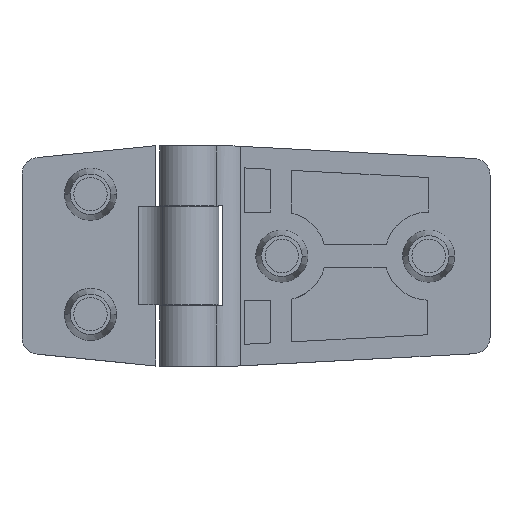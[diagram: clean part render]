
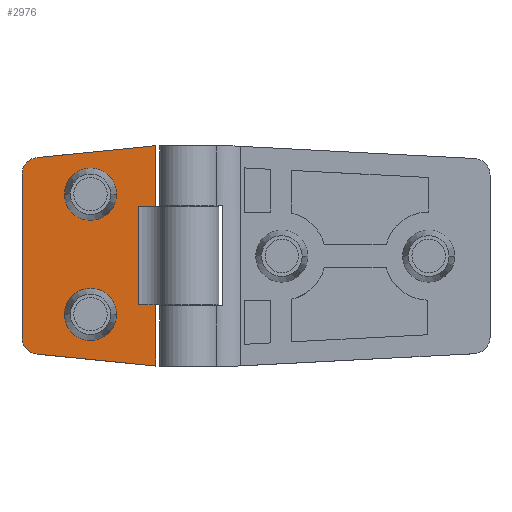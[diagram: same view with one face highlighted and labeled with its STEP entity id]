
A CAD part, top view. The second image highlights one B-rep face of the part: STEP entity #2976.
In plain terms, the highlighted planar face has unit normal (0, 0, 1).
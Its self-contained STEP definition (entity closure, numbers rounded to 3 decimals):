
#31 = DIRECTION ( 'NONE',  ( 0., 0., 1. ) ) ;
#32 = CARTESIAN_POINT ( 'NONE',  ( 27., 28.738, 4. ) ) ;
#33 = AXIS2_PLACEMENT_3D ( 'NONE', #32, #31, #85 ) ;
#34 = CIRCLE ( 'NONE', #33, 2.5 ) ;
#35 = CARTESIAN_POINT ( 'NONE',  ( 27.249, 31.225, 4. ) ) ;
#84 = CARTESIAN_POINT ( 'NONE',  ( 29.5, 28.738, 4. ) ) ;
#85 = DIRECTION ( 'NONE',  ( -1., 0., 0. ) ) ;
#103 = CARTESIAN_POINT ( 'NONE',  ( 27.249, 1.775, 4. ) ) ;
#104 = DIRECTION ( 'NONE',  ( -1., 0., 0. ) ) ;
#105 = DIRECTION ( 'NONE',  ( 0., 0., 1. ) ) ;
#106 = CARTESIAN_POINT ( 'NONE',  ( 27., 4.262, 4. ) ) ;
#107 = AXIS2_PLACEMENT_3D ( 'NONE', #106, #105, #104 ) ;
#108 = CIRCLE ( 'NONE', #107, 2.5 ) ;
#109 = CARTESIAN_POINT ( 'NONE',  ( 29.5, 4.262, 4. ) ) ;
#132 = DIRECTION ( 'NONE',  ( -1., 0., 0. ) ) ;
#133 = DIRECTION ( 'NONE',  ( 0., 0., -1. ) ) ;
#134 = CARTESIAN_POINT ( 'NONE',  ( 19.244, 25.272, 4. ) ) ;
#135 = AXIS2_PLACEMENT_3D ( 'NONE', #134, #133, #132 ) ;
#136 = CIRCLE ( 'NONE', #135, 3.9 ) ;
#147 = VECTOR ( 'NONE', #208, 1000. ) ;
#148 = CARTESIAN_POINT ( 'NONE',  ( 9.5, 33., 4. ) ) ;
#149 = LINE ( 'NONE', #148, #147 ) ;
#150 = CARTESIAN_POINT ( 'NONE',  ( 9.5, 33., 4. ) ) ;
#151 = DIRECTION ( 'NONE',  ( -0.995, 0.1, 0. ) ) ;
#152 = VECTOR ( 'NONE', #151, 1000. ) ;
#153 = CARTESIAN_POINT ( 'NONE',  ( 29.5, 31., 4. ) ) ;
#154 = LINE ( 'NONE', #153, #152 ) ;
#155 = DIRECTION ( 'NONE',  ( 0., 1., 0. ) ) ;
#156 = VECTOR ( 'NONE', #155, 1000. ) ;
#157 = CARTESIAN_POINT ( 'NONE',  ( 29.5, 2., 4. ) ) ;
#158 = LINE ( 'NONE', #157, #156 ) ;
#184 = FACE_BOUND ( 'NONE', #3026, .T. ) ;
#185 = FACE_OUTER_BOUND ( 'NONE', #2980, .T. ) ;
#186 = FACE_BOUND ( 'NONE', #2977, .T. ) ;
#187 = DIRECTION ( 'NONE',  ( 0., -1., 0. ) ) ;
#188 = VECTOR ( 'NONE', #187, 1000. ) ;
#189 = CARTESIAN_POINT ( 'NONE',  ( 12.118, 33., 4. ) ) ;
#190 = LINE ( 'NONE', #189, #188 ) ;
#192 = CARTESIAN_POINT ( 'NONE',  ( 12.118, 9.15, 4. ) ) ;
#198 = CARTESIAN_POINT ( 'NONE',  ( 9.5, 9.15, 4. ) ) ;
#199 = DIRECTION ( 'NONE',  ( -1., 0., 0. ) ) ;
#200 = VECTOR ( 'NONE', #199, 1000. ) ;
#201 = CARTESIAN_POINT ( 'NONE',  ( 9.5, 9.15, 4. ) ) ;
#202 = LINE ( 'NONE', #201, #200 ) ;
#203 = DIRECTION ( 'NONE',  ( 1., 0., 0. ) ) ;
#204 = VECTOR ( 'NONE', #203, 1000. ) ;
#205 = CARTESIAN_POINT ( 'NONE',  ( 9.5, 23.85, 4. ) ) ;
#206 = LINE ( 'NONE', #205, #204 ) ;
#207 = CARTESIAN_POINT ( 'NONE',  ( 9.5, 23.85, 4. ) ) ;
#208 = DIRECTION ( 'NONE',  ( 0., -1., 0. ) ) ;
#226 = CARTESIAN_POINT ( 'NONE',  ( 9.5, 0., 4. ) ) ;
#227 = DIRECTION ( 'NONE',  ( 0.995, 0.1, 0. ) ) ;
#228 = VECTOR ( 'NONE', #227, 1000. ) ;
#229 = CARTESIAN_POINT ( 'NONE',  ( 9.5, 0., 4. ) ) ;
#230 = LINE ( 'NONE', #229, #228 ) ;
#231 = DIRECTION ( 'NONE',  ( 1., 0., 0. ) ) ;
#232 = DIRECTION ( 'NONE',  ( 0., 0., 1. ) ) ;
#233 = CARTESIAN_POINT ( 'NONE',  ( 29.5, 33., 4. ) ) ;
#234 = AXIS2_PLACEMENT_3D ( 'NONE', #233, #232, #231 ) ;
#235 = PLANE ( 'NONE',  #234 ) ;
#243 = CARTESIAN_POINT ( 'NONE',  ( 12.118, 23.85, 4. ) ) ;
#373 = DIRECTION ( 'NONE',  ( 0., -1., 0. ) ) ;
#374 = VECTOR ( 'NONE', #373, 1000. ) ;
#382 = CARTESIAN_POINT ( 'NONE',  ( 9.5, 9.15, 4. ) ) ;
#383 = LINE ( 'NONE', #382, #374 ) ;
#2758 = VERTEX_POINT ( 'NONE', #4429 ) ;
#2775 = VERTEX_POINT ( 'NONE', #4449 ) ;
#2814 = EDGE_CURVE ( 'NONE', #2815, #2758, #4568, .T. ) ;
#2815 = VERTEX_POINT ( 'NONE', #4563 ) ;
#2830 = EDGE_CURVE ( 'NONE', #2831, #2775, #4636, .T. ) ;
#2831 = VERTEX_POINT ( 'NONE', #4631 ) ;
#2874 = EDGE_CURVE ( 'NONE', #2775, #2831, #4771, .T. ) ;
#2918 = VERTEX_POINT ( 'NONE', #35 ) ;
#2920 = EDGE_CURVE ( 'NONE', #2921, #2918, #34, .T. ) ;
#2921 = VERTEX_POINT ( 'NONE', #84 ) ;
#2934 = VERTEX_POINT ( 'NONE', #109 ) ;
#2936 = EDGE_CURVE ( 'NONE', #2937, #2934, #108, .T. ) ;
#2937 = VERTEX_POINT ( 'NONE', #103 ) ;
#2946 = EDGE_CURVE ( 'NONE', #2758, #2815, #136, .T. ) ;
#2956 = ORIENTED_EDGE ( 'NONE', *, *, #2957, .T. ) ;
#2957 = EDGE_CURVE ( 'NONE', #2934, #2921, #158, .T. ) ;
#2958 = ORIENTED_EDGE ( 'NONE', *, *, #2920, .T. ) ;
#2959 = ORIENTED_EDGE ( 'NONE', *, *, #2960, .T. ) ;
#2960 = EDGE_CURVE ( 'NONE', #2918, #2961, #154, .T. ) ;
#2961 = VERTEX_POINT ( 'NONE', #150 ) ;
#2962 = ORIENTED_EDGE ( 'NONE', *, *, #2963, .T. ) ;
#2963 = EDGE_CURVE ( 'NONE', #2961, #2964, #149, .T. ) ;
#2964 = VERTEX_POINT ( 'NONE', #207 ) ;
#2965 = ORIENTED_EDGE ( 'NONE', *, *, #2966, .T. ) ;
#2966 = EDGE_CURVE ( 'NONE', #2964, #2993, #206, .T. ) ;
#2967 = ORIENTED_EDGE ( 'NONE', *, *, #2975, .T. ) ;
#2968 = ORIENTED_EDGE ( 'NONE', *, *, #2969, .T. ) ;
#2969 = EDGE_CURVE ( 'NONE', #2973, #2970, #202, .T. ) ;
#2970 = VERTEX_POINT ( 'NONE', #198 ) ;
#2973 = VERTEX_POINT ( 'NONE', #192 ) ;
#2975 = EDGE_CURVE ( 'NONE', #2993, #2973, #190, .T. ) ;
#2976 = ADVANCED_FACE ( 'NONE', ( #186, #185, #184 ), #235, .T. ) ;
#2977 = EDGE_LOOP ( 'NONE', ( #2978, #2979 ) ) ;
#2978 = ORIENTED_EDGE ( 'NONE', *, *, #2830, .T. ) ;
#2979 = ORIENTED_EDGE ( 'NONE', *, *, #2874, .T. ) ;
#2980 = EDGE_LOOP ( 'NONE', ( #2981, #2984, #2956, #2958, #2959, #2962, #2965, #2967, #2968, #3024 ) ) ;
#2981 = ORIENTED_EDGE ( 'NONE', *, *, #2982, .T. ) ;
#2982 = EDGE_CURVE ( 'NONE', #2983, #2937, #230, .T. ) ;
#2983 = VERTEX_POINT ( 'NONE', #226 ) ;
#2984 = ORIENTED_EDGE ( 'NONE', *, *, #2936, .T. ) ;
#2993 = VERTEX_POINT ( 'NONE', #243 ) ;
#3024 = ORIENTED_EDGE ( 'NONE', *, *, #3025, .T. ) ;
#3025 = EDGE_CURVE ( 'NONE', #2970, #2983, #383, .T. ) ;
#3026 = EDGE_LOOP ( 'NONE', ( #3027, #3028 ) ) ;
#3027 = ORIENTED_EDGE ( 'NONE', *, *, #2814, .T. ) ;
#3028 = ORIENTED_EDGE ( 'NONE', *, *, #2946, .T. ) ;
#4429 = CARTESIAN_POINT ( 'NONE',  ( 23.144, 25.272, 4. ) ) ;
#4449 = CARTESIAN_POINT ( 'NONE',  ( 23.144, 7.272, 4. ) ) ;
#4563 = CARTESIAN_POINT ( 'NONE',  ( 15.344, 25.272, 4. ) ) ;
#4564 = DIRECTION ( 'NONE',  ( -1., 0., 0. ) ) ;
#4565 = DIRECTION ( 'NONE',  ( 0., 0., -1. ) ) ;
#4566 = CARTESIAN_POINT ( 'NONE',  ( 19.244, 25.272, 4. ) ) ;
#4567 = AXIS2_PLACEMENT_3D ( 'NONE', #4566, #4565, #4564 ) ;
#4568 = CIRCLE ( 'NONE', #4567, 3.9 ) ;
#4631 = CARTESIAN_POINT ( 'NONE',  ( 15.344, 7.272, 4. ) ) ;
#4632 = DIRECTION ( 'NONE',  ( -1., 0., 0. ) ) ;
#4633 = DIRECTION ( 'NONE',  ( 0., 0., -1. ) ) ;
#4634 = CARTESIAN_POINT ( 'NONE',  ( 19.244, 7.272, 4. ) ) ;
#4635 = AXIS2_PLACEMENT_3D ( 'NONE', #4634, #4633, #4632 ) ;
#4636 = CIRCLE ( 'NONE', #4635, 3.9 ) ;
#4768 = DIRECTION ( 'NONE',  ( -1., 0., 0. ) ) ;
#4769 = DIRECTION ( 'NONE',  ( 0., 0., -1. ) ) ;
#4770 = AXIS2_PLACEMENT_3D ( 'NONE', #4777, #4769, #4768 ) ;
#4771 = CIRCLE ( 'NONE', #4770, 3.9 ) ;
#4777 = CARTESIAN_POINT ( 'NONE',  ( 19.244, 7.272, 4. ) ) ;
